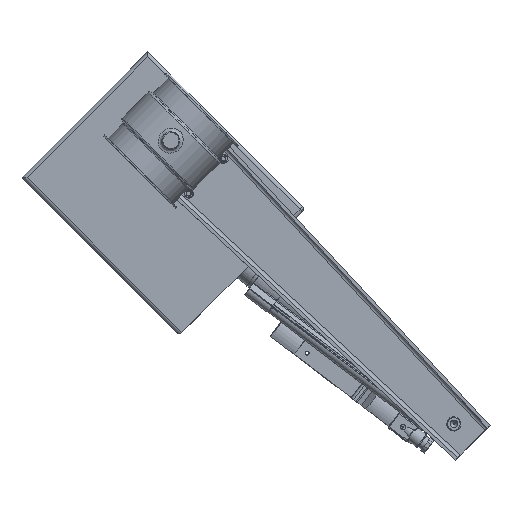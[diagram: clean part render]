
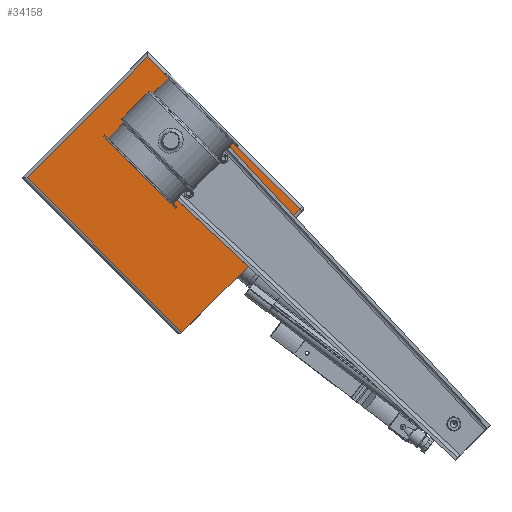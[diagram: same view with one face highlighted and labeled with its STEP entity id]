
A CAD part, top view. The second image highlights one B-rep face of the part: STEP entity #34158.
In plain terms, the highlighted planar face has unit normal (0, 0, 1) as drawn and (0, 0, -1) by its records, which use the part's own axes.
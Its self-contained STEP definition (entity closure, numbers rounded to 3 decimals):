
#33616=CARTESIAN_POINT('',(-250.0,4.,0.0));
#33617=VERTEX_POINT('',#33616);
#33625=CARTESIAN_POINT('',(-4.,4.,0.0));
#33626=VERTEX_POINT('',#33625);
#33627=CARTESIAN_POINT('',(-250.0,4.,0.0));
#33628=DIRECTION('',(1.0,0.0,0.0));
#33629=VECTOR('',#33628,246.0);
#33630=LINE('',#33627,#33629);
#33631=EDGE_CURVE('',#33617,#33626,#33630,.T.);
#33694=CARTESIAN_POINT('',(-246.,196.,0.0));
#33695=VERTEX_POINT('',#33694);
#33718=CARTESIAN_POINT('',(-4.,196.,0.0));
#33719=VERTEX_POINT('',#33718);
#33720=CARTESIAN_POINT('',(-4.,196.0,0.0));
#33721=DIRECTION('',(-1.0,0.0,0.0));
#33722=VECTOR('',#33721,242.0);
#33723=LINE('',#33720,#33722);
#33724=EDGE_CURVE('',#33719,#33695,#33723,.T.);
#33750=CARTESIAN_POINT('',(-246.0,160.,0.0));
#33751=VERTEX_POINT('',#33750);
#33768=CARTESIAN_POINT('',(-246.,196.,0.0));
#33769=DIRECTION('',(0.0,-1.0,0.0));
#33770=VECTOR('',#33769,36.0);
#33771=LINE('',#33768,#33770);
#33772=EDGE_CURVE('',#33695,#33751,#33771,.T.);
#33811=CARTESIAN_POINT('',(-4.,4.0,0.0));
#33812=DIRECTION('',(0.0,1.0,0.0));
#33813=VECTOR('',#33812,192.);
#33814=LINE('',#33811,#33813);
#33815=EDGE_CURVE('',#33626,#33719,#33814,.T.);
#34006=CARTESIAN_POINT('',(-140.0,160.0,0.0));
#34007=VERTEX_POINT('',#34006);
#34008=CARTESIAN_POINT('',(-140.0,160.0,0.0));
#34009=DIRECTION('',(-1.0,0.0,0.0));
#34010=VECTOR('',#34009,106.0);
#34011=LINE('',#34008,#34010);
#34012=EDGE_CURVE('',#34007,#33751,#34011,.T.);
#34054=CARTESIAN_POINT('',(-125.0,100.,0.0));
#34055=DIRECTION('',(0.0,0.0,1.0));
#34056=DIRECTION('',(1.0,0.0,0.0));
#34057=AXIS2_PLACEMENT_3D('',#34054,#34055,#34056);
#34058=PLANE('',#34057);
#34059=ORIENTED_EDGE('',*,*,#33772,.F.);
#34060=ORIENTED_EDGE('',*,*,#33724,.F.);
#34061=ORIENTED_EDGE('',*,*,#33815,.F.);
#34062=ORIENTED_EDGE('',*,*,#33631,.F.);
#34063=CARTESIAN_POINT('',(-250.0,135.,0.0));
#34064=VERTEX_POINT('',#34063);
#34065=CARTESIAN_POINT('',(-250.0,4.,0.0));
#34066=DIRECTION('',(0.0,1.0,0.0));
#34067=VECTOR('',#34066,131.);
#34068=LINE('',#34065,#34067);
#34069=EDGE_CURVE('',#33617,#34064,#34068,.T.);
#34070=ORIENTED_EDGE('',*,*,#34069,.T.);
#34071=CARTESIAN_POINT('',(-140.0,135.,0.0));
#34072=VERTEX_POINT('',#34071);
#34073=CARTESIAN_POINT('',(-250.0,135.,0.0));
#34074=DIRECTION('',(1.0,0.0,0.0));
#34075=VECTOR('',#34074,110.0);
#34076=LINE('',#34073,#34075);
#34077=EDGE_CURVE('',#34064,#34072,#34076,.T.);
#34078=ORIENTED_EDGE('',*,*,#34077,.T.);
#34079=CARTESIAN_POINT('',(-110.0,105.0,0.0));
#34080=VERTEX_POINT('',#34079);
#34081=CARTESIAN_POINT('',(-140.0,135.,0.0));
#34082=DIRECTION('',(0.707,-0.707,0.0));
#34083=VECTOR('',#34082,42.426);
#34084=LINE('',#34081,#34083);
#34085=EDGE_CURVE('',#34072,#34080,#34084,.T.);
#34086=ORIENTED_EDGE('',*,*,#34085,.T.);
#34087=CARTESIAN_POINT('',(-65.0,105.0,0.0));
#34088=VERTEX_POINT('',#34087);
#34089=CARTESIAN_POINT('',(-110.0,105.0,0.0));
#34090=DIRECTION('',(1.0,0.0,0.0));
#34091=VECTOR('',#34090,45.0);
#34092=LINE('',#34089,#34091);
#34093=EDGE_CURVE('',#34080,#34088,#34092,.T.);
#34094=ORIENTED_EDGE('',*,*,#34093,.T.);
#34095=CARTESIAN_POINT('',(-45.0,125.,0.0));
#34096=VERTEX_POINT('',#34095);
#34097=CARTESIAN_POINT('',(-65.,105.0,0.0));
#34098=DIRECTION('',(0.707,0.707,0.0));
#34099=VECTOR('',#34098,28.284);
#34100=LINE('',#34097,#34099);
#34101=EDGE_CURVE('',#34088,#34096,#34100,.T.);
#34102=ORIENTED_EDGE('',*,*,#34101,.T.);
#34103=CARTESIAN_POINT('',(-45.,170.,0.0));
#34104=VERTEX_POINT('',#34103);
#34105=CARTESIAN_POINT('',(-45.0,125.,0.0));
#34106=DIRECTION('',(0.0,1.0,0.0));
#34107=VECTOR('',#34106,45.);
#34108=LINE('',#34105,#34107);
#34109=EDGE_CURVE('',#34096,#34104,#34108,.T.);
#34110=ORIENTED_EDGE('',*,*,#34109,.T.);
#34111=CARTESIAN_POINT('',(-65.,190.,0.0));
#34112=VERTEX_POINT('',#34111);
#34113=CARTESIAN_POINT('',(-45.0,170.,0.0));
#34114=DIRECTION('',(-0.707,0.707,0.0));
#34115=VECTOR('',#34114,28.284);
#34116=LINE('',#34113,#34115);
#34117=EDGE_CURVE('',#34104,#34112,#34116,.T.);
#34118=ORIENTED_EDGE('',*,*,#34117,.T.);
#34119=CARTESIAN_POINT('',(-110.,190.,0.0));
#34120=VERTEX_POINT('',#34119);
#34121=CARTESIAN_POINT('',(-65.,190.,0.0));
#34122=DIRECTION('',(-1.0,0.0,0.0));
#34123=VECTOR('',#34122,45.0);
#34124=LINE('',#34121,#34123);
#34125=EDGE_CURVE('',#34112,#34120,#34124,.T.);
#34126=ORIENTED_EDGE('',*,*,#34125,.T.);
#34127=CARTESIAN_POINT('',(-110.,190.,0.0));
#34128=DIRECTION('',(-0.707,-0.707,0.0));
#34129=VECTOR('',#34128,42.426);
#34130=LINE('',#34127,#34129);
#34131=EDGE_CURVE('',#34120,#34007,#34130,.T.);
#34132=ORIENTED_EDGE('',*,*,#34131,.T.);
#34133=ORIENTED_EDGE('',*,*,#34012,.T.);
#34134=EDGE_LOOP('',(#34059,#34060,#34061,#34062,#34070,#34078,#34086,#34094,#34102,#34110,#34118,#34126,#34132,#34133));
#34135=FACE_OUTER_BOUND('',#34134,.T.);
#34136=CARTESIAN_POINT('',(-148.0,120.,0.0));
#34137=VERTEX_POINT('',#34136);
#34138=CARTESIAN_POINT('',(-145.,120.,0.0));
#34139=DIRECTION('',(0.0,0.0,1.0));
#34140=DIRECTION('',(1.0,0.0,0.0));
#34141=AXIS2_PLACEMENT_3D('',#34138,#34139,#34140);
#34142=CIRCLE('',#34141,3.);
#34143=EDGE_CURVE('',#34137,#34137,#34142,.T.);
#34144=ORIENTED_EDGE('',*,*,#34143,.T.);
#34145=EDGE_LOOP('',(#34144));
#34146=FACE_BOUND('',#34145,.T.);
#34147=CARTESIAN_POINT('',(-148.,175.0,0.0));
#34148=VERTEX_POINT('',#34147);
#34149=CARTESIAN_POINT('',(-145.,175.0,0.0));
#34150=DIRECTION('',(0.0,0.0,1.0));
#34151=DIRECTION('',(1.0,0.0,0.0));
#34152=AXIS2_PLACEMENT_3D('',#34149,#34150,#34151);
#34153=CIRCLE('',#34152,3.);
#34154=EDGE_CURVE('',#34148,#34148,#34153,.T.);
#34155=ORIENTED_EDGE('',*,*,#34154,.T.);
#34156=EDGE_LOOP('',(#34155));
#34157=FACE_BOUND('',#34156,.T.);
#34158=ADVANCED_FACE('',(#34135,#34146,#34157),#34058,.F.);
